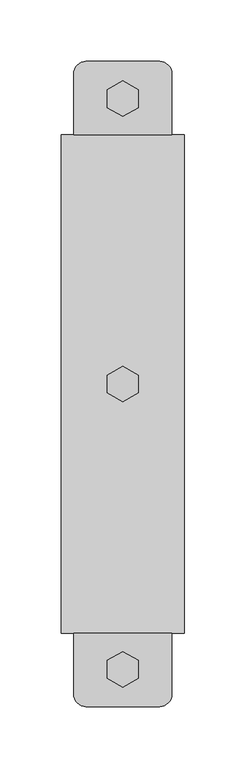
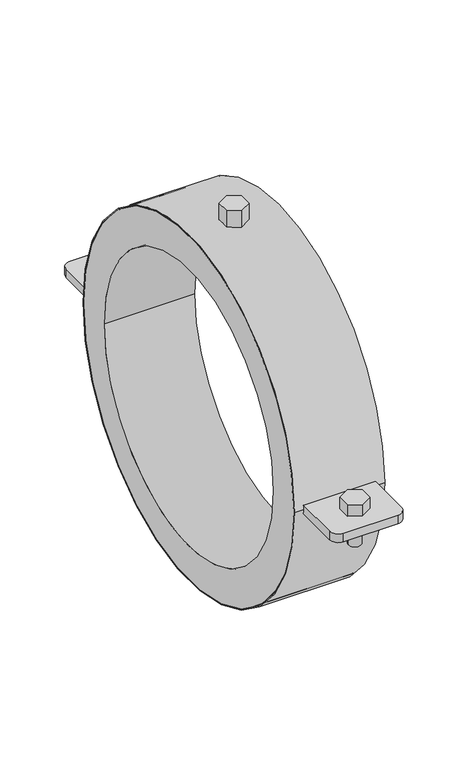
"""IFC4 building model written with IfcOpenShell, lengths in millimetres: pipe fitting geometry, СТ_Подвесы_ДляТруб_IsotermSM_D10-325_СимфонияТепла : Isoterm SMT 40-324."""

from ifc_helpers import new_model, si_unit, point, frame, frame_2d, origin, origin_2d, place, context, project, spatial, polyline, circle_curve, trimmed, segment, composite_curve, outline, extrude, source, transform, mapped, element, save
from ifc_brep_helpers import plane_surface, cylinder_surface, advanced_brep


def pipe_fitting_db2d8663(model_context):
    return source(origin(), model_context, "Body", "SolidModel", [
        extrude(outline(polyline([(12.5, 226.0113249), (0.0, 218.7944465), (-12.5, 226.0113249), (-12.5, 240.4450816), (0.0, 247.66196), (12.5, 240.4450816), (12.5, 226.0113249)])), frame((0.0, 0.0, -18.0), z_axis=(0.0, 0.0, 1.0), x_axis=(1.0, 0.0, 0.0)), (0.0, 0.0, 1.0), 13.0),
        advanced_brep(
        [(-7.0, 232.3, -35.0), (7.0, 232.3, -35.0), (7.0, 232.3, 5.0), (-7.0, 232.3, 5.0), (12.5, 225.0831216, 18.0), (12.5, 239.5168784, 18.0), (0.0, 246.7337567, 18.0), (-12.5, 239.5168784, 18.0), (-12.5, 225.0831216, 18.0), (0.0, 217.8662433, 18.0), (12.5, 225.0831216, 5.0), (0.0, 217.8662433, 5.0), (-12.5, 225.0831216, 5.0), (-12.5, 239.5168784, 5.0), (0.0, 246.7337567, 5.0), (12.5, 239.5168784, 5.0)],
        [
            (0, 1, circle_curve(frame((0.0, 232.3, -35.0), z_axis=(0.0, 0.0, -1.0), x_axis=(1.0, 0.0, 0.0)), 7.0)),
            (1, 0, circle_curve(frame((0.0, 232.3, -35.0), z_axis=(0.0, 0.0, -1.0), x_axis=(1.0, 0.0, 0.0)), 7.0)),
            (1, 2),
            (2, 3, circle_curve(frame((0.0, 232.3, 5.0), z_axis=(0.0, 0.0, -1.0), x_axis=(1.0, 0.0, 0.0)), 7.0)),
            (3, 0),
            (3, 2, circle_curve(frame((0.0, 232.3, 5.0), z_axis=(0.0, 0.0, -1.0), x_axis=(1.0, 0.0, 0.0)), 7.0)),
            (4, 5),
            (5, 6),
            (6, 7),
            (7, 8),
            (8, 9),
            (9, 4),
            (10, 11),
            (11, 12),
            (12, 13),
            (13, 14),
            (14, 15),
            (15, 10),
            (4, 10),
            (15, 5),
            (14, 6),
            (13, 7),
            (12, 8),
            (11, 9),
        ],
        [
            plane_surface(frame((7.0, 232.3, -35.0), z_axis=(0.0, 0.0, -1.0), x_axis=(0.0, -1.0, 0.0))),
            cylinder_surface(frame((0.0, 232.3, -35.0), z_axis=(0.0, 0.0, 1.0), x_axis=(1.0, 0.0, 0.0)), 7.0),
            plane_surface(frame((12.5, 225.0831216, 18.0), z_axis=(0.0, 0.0, 1.0), x_axis=(0.0, 1.0, 0.0))),
            plane_surface(frame((12.5, 225.0831216, 5.0), z_axis=(0.0, 0.0, -1.0), x_axis=(0.0, -1.0, 0.0))),
            plane_surface(frame((12.5, 225.0831216, 18.0), z_axis=(1.0, 0.0, 0.0), x_axis=(0.0, 0.0, -1.0))),
            plane_surface(frame((12.5, 239.5168784, 18.0), z_axis=(0.5000000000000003, 0.8660254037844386, 0.0), x_axis=(0.0, 0.0, -1.0))),
            plane_surface(frame((0.0, 246.7337567, 18.0), z_axis=(-0.5000000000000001, 0.8660254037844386, 0.0), x_axis=(0.0, 0.0, -1.0))),
            plane_surface(frame((-12.5, 239.5168784, 18.0), z_axis=(-1.0, 0.0, 0.0), x_axis=(0.0, 0.0, -1.0))),
            plane_surface(frame((-12.5, 225.0831216, 18.0), z_axis=(-0.5000000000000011, -0.8660254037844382, 0.0), x_axis=(0.0, 0.0, -1.0))),
            plane_surface(frame((0.0, 217.8662433, 18.0), z_axis=(0.5000000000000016, -0.8660254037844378, 0.0), x_axis=(0.0, 0.0, -1.0))),
        ],
        [
            (0, [[1, 2]]),
            (1, [[-2, 3, 4, 5]]),
            (1, [[-1, -5, 6, -3]]),
            (2, [[7, 8, 9, 10, 11, 12]]),
            (3, [[13, 14, 15, 16, 17, 18], [-4, -6]]),
            (4, [[-7, 19, -18, 20]]),
            (5, [[-8, -20, -17, 21]]),
            (6, [[-9, -21, -16, 22]]),
            (7, [[-10, -22, -15, 23]]),
            (8, [[-11, -23, -14, 24]]),
            (9, [[-12, -24, -13, -19]]),
        ],
    ),
        extrude(outline(polyline([(12.5, -238.5886751), (0.0, -245.8055535), (-12.5, -238.5886751), (-12.5, -224.1549184), (0.0, -216.93804), (12.5, -224.1549184), (12.5, -238.5886751)])), frame((0.0, 0.0, -18.0), z_axis=(0.0, 0.0, 1.0), x_axis=(1.0, 0.0, 0.0)), (0.0, 0.0, 1.0), 13.0),
        advanced_brep(
        [(-7.0, -232.3, -35.0), (7.0, -232.3, -35.0), (7.0, -232.3, 5.0), (-7.0, -232.3, 5.0), (12.5, -239.5168784, 18.0), (12.5, -225.0831216, 18.0), (0.0, -217.8662433, 18.0), (-12.5, -225.0831216, 18.0), (-12.5, -239.5168784, 18.0), (0.0, -246.7337567, 18.0), (12.5, -239.5168784, 5.0), (0.0, -246.7337567, 5.0), (-12.5, -239.5168784, 5.0), (-12.5, -225.0831216, 5.0), (0.0, -217.8662433, 5.0), (12.5, -225.0831216, 5.0)],
        [
            (0, 1, circle_curve(frame((0.0, -232.3, -35.0), z_axis=(0.0, 0.0, -1.0), x_axis=(1.0, 0.0, 0.0)), 7.0)),
            (1, 0, circle_curve(frame((0.0, -232.3, -35.0), z_axis=(0.0, 0.0, -1.0), x_axis=(1.0, 0.0, 0.0)), 7.0)),
            (1, 2),
            (2, 3, circle_curve(frame((0.0, -232.3, 5.0), z_axis=(0.0, 0.0, -1.0), x_axis=(1.0, 0.0, 0.0)), 7.0)),
            (3, 0),
            (3, 2, circle_curve(frame((0.0, -232.3, 5.0), z_axis=(0.0, 0.0, -1.0), x_axis=(1.0, 0.0, 0.0)), 7.0)),
            (4, 5),
            (5, 6),
            (6, 7),
            (7, 8),
            (8, 9),
            (9, 4),
            (10, 11),
            (11, 12),
            (12, 13),
            (13, 14),
            (14, 15),
            (15, 10),
            (4, 10),
            (15, 5),
            (14, 6),
            (13, 7),
            (12, 8),
            (11, 9),
        ],
        [
            plane_surface(frame((7.0, -232.3, -35.0), z_axis=(0.0, 0.0, -1.0), x_axis=(0.0, -1.0, 0.0))),
            cylinder_surface(frame((0.0, -232.3, -35.0), z_axis=(0.0, 0.0, 1.0), x_axis=(1.0, 0.0, 0.0)), 7.0),
            plane_surface(frame((12.5, -239.5168784, 18.0), z_axis=(0.0, 0.0, 1.0), x_axis=(0.0, 1.0, 0.0))),
            plane_surface(frame((12.5, -239.5168784, 5.0), z_axis=(0.0, 0.0, -1.0), x_axis=(0.0, -1.0, 0.0))),
            plane_surface(frame((12.5, -239.5168784, 18.0), z_axis=(1.0, 0.0, 0.0), x_axis=(0.0, 0.0, -1.0))),
            plane_surface(frame((12.5, -225.0831216, 18.0), z_axis=(0.5000000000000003, 0.8660254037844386, 0.0), x_axis=(0.0, 0.0, -1.0))),
            plane_surface(frame((0.0, -217.8662433, 18.0), z_axis=(-0.5000000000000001, 0.8660254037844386, 0.0), x_axis=(0.0, 0.0, -1.0))),
            plane_surface(frame((-12.5, -225.0831216, 18.0), z_axis=(-1.0, 0.0, 0.0), x_axis=(0.0, 0.0, -1.0))),
            plane_surface(frame((-12.5, -239.5168784, 18.0), z_axis=(-0.5000000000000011, -0.8660254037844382, 0.0), x_axis=(0.0, 0.0, -1.0))),
            plane_surface(frame((0.0, -246.7337567, 18.0), z_axis=(0.5000000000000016, -0.8660254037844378, 0.0), x_axis=(0.0, 0.0, -1.0))),
        ],
        [
            (0, [[1, 2]]),
            (1, [[-2, 3, 4, 5]]),
            (1, [[-1, -5, 6, -3]]),
            (2, [[7, 8, 9, 10, 11, 12]]),
            (3, [[13, 14, 15, 16, 17, 18], [-4, -6]]),
            (4, [[-7, 19, -18, 20]]),
            (5, [[-8, -20, -17, 21]]),
            (6, [[-9, -21, -16, 22]]),
            (7, [[-10, -22, -15, 23]]),
            (8, [[-11, -23, -14, 24]]),
            (9, [[-12, -24, -13, -19]]),
        ],
    ),
        extrude(outline(composite_curve([segment(trimmed(circle_curve(origin_2d(), 203.0), [point((-203.0, 0.0))], [point((203.0, 0.0))], False, "CARTESIAN"), True, "CONTINUOUS"), segment(trimmed(circle_curve(origin_2d(), 203.0), [point((203.0, 0.0))], [point((-203.0, 0.0))], False, "CARTESIAN"), True, "CONTINUOUS")], self_intersect=False), holes=[composite_curve([segment(trimmed(circle_curve(origin_2d(), 202.0), [point((-202.0, 0.0))], [point((202.0, 0.0))], True, "CARTESIAN"), True, "CONTINUOUS"), segment(trimmed(circle_curve(origin_2d(), 202.0), [point((202.0, 0.0))], [point((-202.0, 0.0))], True, "CARTESIAN"), True, "CONTINUOUS")], self_intersect=False)]), frame((-50.0, 0.0, 0.0), z_axis=(1.0, 0.0, 0.0), x_axis=(0.0, 1.0, 0.0)), (0.0, 0.0, 1.0), 100.0),
        extrude(outline(polyline([(12.5, -7.2168784), (0.0, -14.4337567), (-12.5, -7.2168784), (-12.5, 7.2168784), (0.0, 14.4337567), (12.5, 7.2168784), (12.5, -7.2168784)])), frame((0.0, 0.0, 202.0), z_axis=(0.0, 0.0, 1.0), x_axis=(1.0, 0.0, 0.0)), (0.0, 0.0, 1.0), 20.0),
        extrude(outline(composite_curve([segment(trimmed(circle_curve(frame_2d((-30.0, 252.6)), 10.0), [point((-40.0, 252.6))], [point((-30.0, 262.6))], False, "CARTESIAN"), True, "CONTINUOUS"), segment(polyline([(-30.0, 262.6), (30.0, 262.6)]), True, "CONTINUOUS"), segment(trimmed(circle_curve(frame_2d((30.0, 252.6)), 10.0), [point((30.0, 262.6))], [point((40.0, 252.6))], False, "CARTESIAN"), True, "CONTINUOUS"), segment(polyline([(40.0, 252.6), (40.0, 202.0), (-40.0, 202.0), (-40.0, 252.6)]), True, "CONTINUOUS")], self_intersect=False)), frame((0.0, 0.0, -5.0), z_axis=(0.0, 0.0, 1.0), x_axis=(1.0, 0.0, 0.0)), (0.0, 0.0, 1.0), 10.0),
        extrude(outline(composite_curve([segment(polyline([(-40.0, -202.0), (40.0, -202.0), (40.0, -252.6)]), True, "CONTINUOUS"), segment(trimmed(circle_curve(frame_2d((30.0, -252.6)), 10.0), [point((40.0, -252.6))], [point((30.0, -262.6))], False, "CARTESIAN"), True, "CONTINUOUS"), segment(polyline([(30.0, -262.6), (-30.0, -262.6)]), True, "CONTINUOUS"), segment(trimmed(circle_curve(frame_2d((-30.0, -252.6)), 10.0), [point((-30.0, -262.6))], [point((-40.0, -252.6))], False, "CARTESIAN"), True, "CONTINUOUS"), segment(polyline([(-40.0, -252.6), (-40.0, -202.0)]), True, "CONTINUOUS")], self_intersect=False)), frame((0.0, 0.0, -5.0), z_axis=(0.0, 0.0, 1.0), x_axis=(1.0, 0.0, 0.0)), (0.0, 0.0, 1.0), 10.0),
        extrude(outline(composite_curve([segment(trimmed(circle_curve(origin_2d(), 202.0), [point((-202.0, 0.0))], [point((202.0, 0.0))], False, "CARTESIAN"), True, "CONTINUOUS"), segment(trimmed(circle_curve(origin_2d(), 202.0), [point((202.0, 0.0))], [point((-202.0, 0.0))], False, "CARTESIAN"), True, "CONTINUOUS")], self_intersect=False), holes=[composite_curve([segment(trimmed(circle_curve(origin_2d(), 162.0), [point((-162.0, 0.0))], [point((162.0, 0.0))], True, "CARTESIAN"), True, "CONTINUOUS"), segment(trimmed(circle_curve(origin_2d(), 162.0), [point((162.0, 0.0))], [point((-162.0, 0.0))], True, "CARTESIAN"), True, "CONTINUOUS")], self_intersect=False)]), frame((-50.0, 0.0, 0.0), z_axis=(1.0, 0.0, 0.0), x_axis=(0.0, 1.0, 0.0)), (0.0, 0.0, 1.0), 100.0),
    ])


if __name__ == "__main__":
    model = new_model("IFC4")
    model_context = context("Model", 3, world=origin())
    ifc_project = project(units=[si_unit("LENGTHUNIT", "METRE", prefix="MILLI")], contexts=[model_context])
    site = spatial("IfcSite", under=ifc_project)
    building = spatial("IfcBuilding", under=site)
    placement = place(None, origin())
    pipe_fitting_shape = pipe_fitting_db2d8663(model_context)
    element("IfcPipeFitting", 1, ObjectType="СТ_Подвесы_ДляТруб_IsotermSM_D10-325_СимфонияТепла : Isoterm SMT 40-324", at=placement, inside=building, context=model_context, shape_type="MappedRepresentation", body=[
        mapped(pipe_fitting_shape, transform((0.0, 0.0, 0.0), x_axis=(1.0, 0.0, 0.0), y_axis=(0.0, 1.0, 0.0), z_axis=(0.0, 0.0, 1.0))),
    ])
    save(model, "model.ifc")
